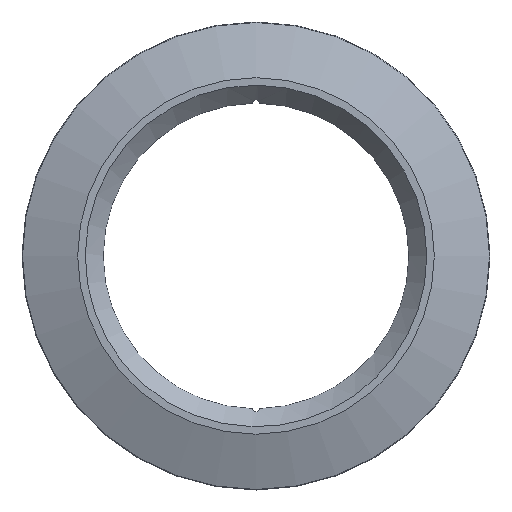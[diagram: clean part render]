
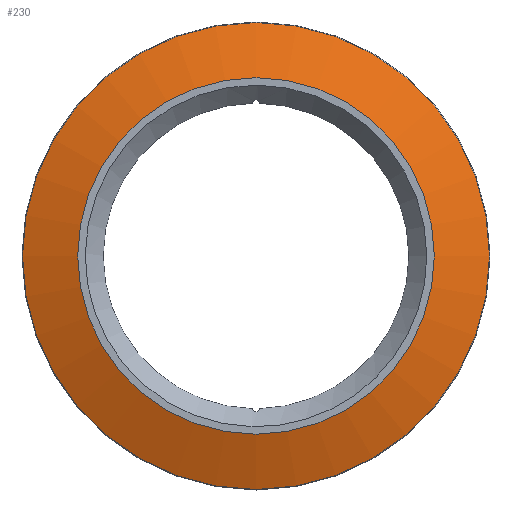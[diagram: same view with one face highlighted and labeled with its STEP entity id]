
A CAD part, top view. The second image highlights one B-rep face of the part: STEP entity #230.
In plain terms, the highlighted conical face has half-angle 70 degrees and reference radius 80.5 mm.
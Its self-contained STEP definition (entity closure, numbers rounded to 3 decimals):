
#105=CONICAL_SURFACE('',#247,80.5,1.222);
#115=CIRCLE('',#245,78.015);
#116=CIRCLE('',#248,59.619);
#136=VERTEX_POINT('',#360);
#137=VERTEX_POINT('',#364);
#154=EDGE_CURVE('',#136,#136,#115,.T.);
#155=EDGE_CURVE('',#137,#137,#116,.T.);
#179=ORIENTED_EDGE('',*,*,#155,.T.);
#180=ORIENTED_EDGE('',*,*,#154,.F.);
#201=EDGE_LOOP('',(#179));
#202=EDGE_LOOP('',(#180));
#217=FACE_BOUND('',#201,.T.);
#218=FACE_BOUND('',#202,.T.);
#230=ADVANCED_FACE('',(#217,#218),#105,.T.);
#245=AXIS2_PLACEMENT_3D('',#359,#277,#278);
#247=AXIS2_PLACEMENT_3D('',#362,#281,#282);
#248=AXIS2_PLACEMENT_3D('',#363,#283,#284);
#277=DIRECTION('',(0.,0.,-1.));
#278=DIRECTION('',(78.015,0.,0.));
#281=DIRECTION('',(0.,0.,-1.));
#282=DIRECTION('',(80.5,0.,0.));
#283=DIRECTION('',(0.,0.,-1.));
#284=DIRECTION('',(59.619,0.,0.));
#359=CARTESIAN_POINT('',(0.,0.,0.904));
#360=CARTESIAN_POINT('',(-78.015,0.,0.904));
#362=CARTESIAN_POINT('',(0.,0.,0.));
#363=CARTESIAN_POINT('',(0.,0.,7.6));
#364=CARTESIAN_POINT('',(-59.619,0.,7.6));
